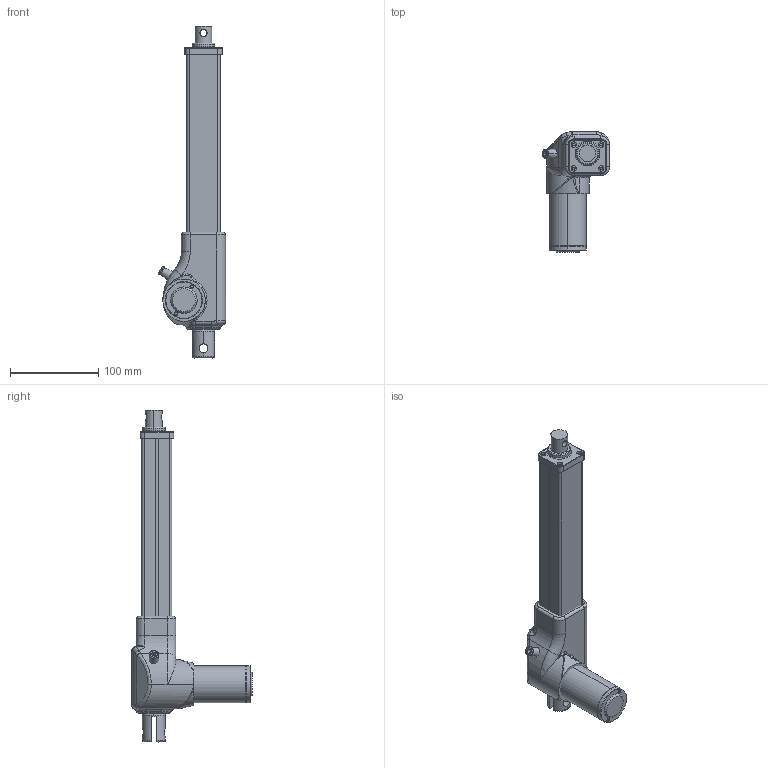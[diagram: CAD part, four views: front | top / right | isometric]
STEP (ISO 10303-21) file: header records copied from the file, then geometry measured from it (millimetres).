
FILE_DESCRIPTION((''),'2;1');
FILE_NAME('LAM2_ASM_ASM','2012-11-06T',('amyliao'),(''),'PRO/ENGINEER BY PARAMETRIC TECHNOLOGY CORPORATION, 2003210','PRO/ENGINEER BY PARAMETRIC TECHNOLOGY CORPORATION, 2003210','');
FILE_SCHEMA(('CONFIG_CONTROL_DESIGN'));
Length unit declared in the file: millimetre
Products named in the file (5): TB; C6F001A1; 01; C6E002A1; LAM2_ASM_ASM
Assembly tree (4 placements, depth 2):
  LAM2_ASM_ASM
    TB
    C6F001A1
    01
    C6E002A1
Bounding box: 76.03 x 136.5 x 376 mm (x, y, z)
Volume: 149450.3 mm3; surface area: 180011.2 mm2
Topology: 3 solids, 8 shells, 359 faces, 1038 edges, 686 vertices
Faces by surface type: cylinder 160, plane 99, torus 47, bspline 37, cone 14, sphere 2
Entity records: 15071 total; most frequent: CARTESIAN_POINT 5660, ORIENTED_EDGE 1970, DIRECTION 1868, EDGE_CURVE 1036, AXIS2_PLACEMENT_3D 708, VERTEX_POINT 686, VECTOR 452, LINE 452
